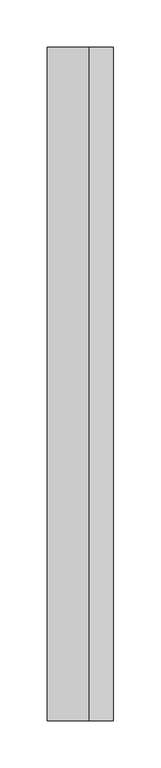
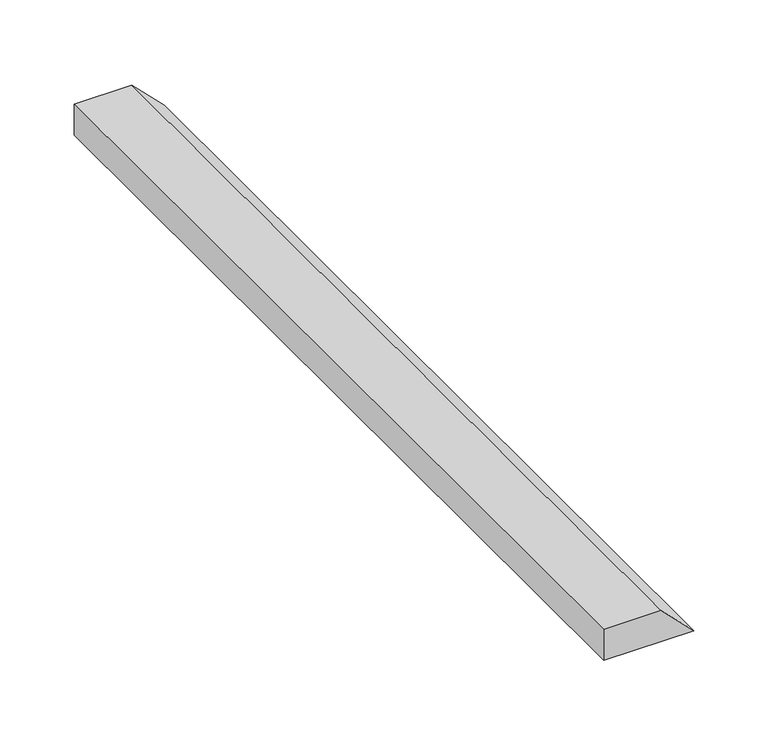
"""IFC4 building model written with IfcOpenShell, lengths in millimetres: proxy geometry, CAMBRIDGE^TABLE 2_4884 Rect-CORNER STILE 8."""

import ifcopenshell
import ifcopenshell.guid

model = None  # the IFC model being written
_history = None  # IfcOwnerHistory: only IFC2X3 demands one
_inside = {}  # id of a spatial element -> (the spatial element, [elements in it])
_under = {}  # id of a project, library or spatial element -> (it, [spatial elements below it])
_declared = {}  # id of a project -> (the project, [libraries it declares])
_typed = {}  # id of a type object -> (the type object, [elements of that type])
_made_of = {}  # id of a material, layer set ... -> (it, [elements and type objects made of it])


def new_model(schema):
    """Start an empty IFC model of exactly this schema.

    Asked for "IFC4X3", IfcOpenShell would pick the latest addendum, in which some entities
    have other attributes; the version numbers below select the first issue.
    IFC2X3 requires an IfcOwnerHistory on every rooted entity: one is made here for all.
    """
    global model, _history
    if schema == "IFC4X3":
        model = ifcopenshell.file(schema_version=(4, 3, 0, 0))
    else:
        model = ifcopenshell.file(schema=schema)
    _inside.clear()
    _under.clear()
    _declared.clear()
    _typed.clear()
    _made_of.clear()
    _history = None
    if model.schema == "IFC2X3":
        org = make("IfcOrganization", Name="unknown")
        user = make(
            "IfcPersonAndOrganization",
            ThePerson=make("IfcPerson", FamilyName="unknown"),
            TheOrganization=org,
        )
        app = make(
            "IfcApplication",
            ApplicationDeveloper=org,
            Version="unknown",
            ApplicationFullName="unknown",
            ApplicationIdentifier="unknown",
        )
        _history = make(
            "IfcOwnerHistory",
            OwningUser=user,
            OwningApplication=app,
            ChangeAction="ADDED",
            CreationDate=0,
        )
    return model


def make(cls, **values):
    """One entity of the class cls with the attributes given. An attribute that is None is left unset."""
    return model.create_entity(
        cls, **{name: value for name, value in values.items() if value is not None}
    )


def rooted(cls, **values):
    """An entity with a GlobalId (a new one), such as an element, a storey or a relation."""
    return make(cls, GlobalId=ifcopenshell.guid.new(), OwnerHistory=_history, **values)


def si_unit(unit_type, name, prefix=None):
    """IfcSIUnit, for example si_unit("LENGTHUNIT", "METRE", prefix="MILLI")."""
    return make("IfcSIUnit", UnitType=unit_type, Prefix=prefix, Name=name)


def assignment(units):
    """IfcUnitAssignment: the units of a project."""
    return None if units is None else make("IfcUnitAssignment", Units=units)


def point(xyz):
    """IfcCartesianPoint."""
    return None if xyz is None else make("IfcCartesianPoint", Coordinates=xyz)


def direction(xyz):
    """IfcDirection."""
    return None if xyz is None else make("IfcDirection", DirectionRatios=xyz)


def frame(location, z_axis=None, x_axis=None):
    """IfcAxis2Placement3D, a coordinate frame: its origin and axes. An axis left out is left unset."""
    return make(
        "IfcAxis2Placement3D",
        Location=point(location),
        Axis=direction(z_axis),
        RefDirection=direction(x_axis),
    )


def origin():
    """The frame at (0, 0, 0) with its axes left unset."""
    return frame((0.0, 0.0, 0.0))


def place(relative_to, where):
    """IfcLocalPlacement: puts the frame where relative to a parent placement (None: the world)."""
    return make(
        "IfcLocalPlacement", PlacementRelTo=relative_to, RelativePlacement=where
    )


def context(
    kind, dimensions, precision=None, world=None, true_north=None, identifier=None
):
    """IfcGeometricRepresentationContext, for example the 3D "Model" context."""
    return make(
        "IfcGeometricRepresentationContext",
        ContextIdentifier=identifier,
        ContextType=kind,
        CoordinateSpaceDimension=dimensions,
        Precision=precision,
        WorldCoordinateSystem=world,
        TrueNorth=true_north,
    )


def project(units=None, contexts=None):
    """IfcProject with its units and contexts."""
    return rooted(
        "IfcProject",
        Name="project",
        RepresentationContexts=contexts,
        UnitsInContext=assignment(units),
    )


def spatial(cls, under=None, at=None, **own):
    """A site, building, storey or space (cls), placed at a placement, below another one or the project."""
    s = rooted(cls, ObjectPlacement=at, **own)
    if under is not None:
        _under.setdefault(under.id(), (under, []))[1].append(s)
    return s


def polyline(points):
    """IfcPolyline through the points."""
    return make("IfcPolyline", Points=[point(p) for p in points])


def outline(outer, holes=None, kind="AREA"):
    """IfcArbitraryClosedProfileDef: a profile drawn as a closed curve; with holes, ...WithVoids."""
    if holes is None:
        return make("IfcArbitraryClosedProfileDef", ProfileType=kind, OuterCurve=outer)
    return make(
        "IfcArbitraryProfileDefWithVoids",
        ProfileType=kind,
        OuterCurve=outer,
        InnerCurves=holes,
    )


def extrude(swept, where, along, depth):
    """IfcExtrudedAreaSolid: the profile swept, set in the frame where, extruded along a direction by depth."""
    return make(
        "IfcExtrudedAreaSolid",
        SweptArea=swept,
        Position=where,
        ExtrudedDirection=direction(along),
        Depth=depth,
    )


def shape(context_of_items, identifier, shape_type, items):
    """IfcShapeRepresentation: the items that make up one representation, for example the "Body"."""
    return make(
        "IfcShapeRepresentation",
        ContextOfItems=context_of_items,
        RepresentationIdentifier=identifier,
        RepresentationType=shape_type,
        Items=items,
    )


def source(mapping_origin, context_of_items, identifier, shape_type, items):
    """IfcRepresentationMap: a shape defined once, which mapped items show again and again."""
    return make(
        "IfcRepresentationMap",
        MappingOrigin=mapping_origin,
        MappedRepresentation=shape(context_of_items, identifier, shape_type, items),
    )


def transform(
    local_origin,
    x_axis=None,
    y_axis=None,
    z_axis=None,
    scale=None,
    scale2=None,
    scale3=None,
    uniform=True,
):
    """IfcCartesianTransformationOperator3D, or its non-uniform kind. x_axis, y_axis, z_axis: its Axis1, 2, 3."""
    if uniform:
        return make(
            "IfcCartesianTransformationOperator3D",
            Axis1=direction(x_axis),
            Axis2=direction(y_axis),
            LocalOrigin=point(local_origin),
            Scale=scale,
            Axis3=direction(z_axis),
        )
    return make(
        "IfcCartesianTransformationOperator3DnonUniform",
        Axis1=direction(x_axis),
        Axis2=direction(y_axis),
        LocalOrigin=point(local_origin),
        Scale=scale,
        Axis3=direction(z_axis),
        Scale2=scale2,
        Scale3=scale3,
    )


def mapped(mapping_source, mapping_target):
    """IfcMappedItem: shows the shape of a source again, moved by a transform."""
    return make(
        "IfcMappedItem", MappingSource=mapping_source, MappingTarget=mapping_target
    )


def made_of(thing, what):
    """Note that an element or type object is made of a material, layer set ...; save() writes the relation."""
    if what is not None:
        _made_of.setdefault(what.id(), (what, []))[1].append(thing)
    return thing


def element(
    cls,
    number,
    at=None,
    inside=None,
    cuts=None,
    type_object=None,
    material=None,
    context=None,
    identifier="Body",
    shape_type=None,
    held_by="IfcProductDefinitionShape",
    body=None,
    shapes=None,
    **own,
):
    """One element of the class cls, such as IfcWall. Its Tag is "e" and its number.

    at: its placement. inside: the storey or other place that contains it. cuts: it is an
    opening in that element (IfcRelVoidsElement). A single representation is given by context,
    identifier, shape_type and body (its items); several are given by shapes. held_by: the class
    of the entity that holds the representations. save() writes the other relations.
    """
    e = rooted(cls, Tag="e%d" % number, ObjectPlacement=at, **own)
    if body is not None:
        shapes = [shape(context, identifier, shape_type, body)]
    if shapes is not None:
        e.Representation = make(held_by, Representations=shapes)
    if inside is not None:
        _inside.setdefault(inside.id(), (inside, []))[1].append(e)
    if cuts is not None:
        rooted(
            "IfcRelVoidsElement", RelatingBuildingElement=cuts, RelatedOpeningElement=e
        )
    if type_object is not None:
        _typed.setdefault(type_object.id(), (type_object, []))[1].append(e)
    return made_of(e, material)


def aggregate(whole, parts):
    """IfcRelAggregates: a whole, such as a stair, and the parts it consists of."""
    return rooted("IfcRelAggregates", RelatingObject=whole, RelatedObjects=parts)


def save(model, path):
    """Write the relations noted so far, then the file.

    IfcRelAggregates (storeys below a building ...), IfcRelContainedInSpatialStructure (elements
    in a storey), IfcRelDefinesByType, IfcRelAssociatesMaterial and IfcRelDeclares: one each for
    every whole, place, type object, material and project.
    """
    for whole, parts in _under.values():
        aggregate(whole, parts)
    for where, things in _inside.values():
        rooted(
            "IfcRelContainedInSpatialStructure",
            RelatedElements=things,
            RelatingStructure=where,
        )
    for kind, things in _typed.values():
        rooted("IfcRelDefinesByType", RelatedObjects=things, RelatingType=kind)
    for what, things in _made_of.values():
        rooted("IfcRelAssociatesMaterial", RelatedObjects=things, RelatingMaterial=what)
    for by, libraries in _declared.values():
        rooted("IfcRelDeclares", RelatingContext=by, RelatedDefinitions=libraries)
    model.write(path)


def generic_models_080d9df8(model_context):
    return source(origin(), model_context, "Body", "SweptSolid", [
        extrude(outline(polyline([(-787.4, 1498.6), (-787.4, 1454.15), (-812.8, 1454.15), (-812.8, 1524.0), (-787.4, 1498.6)])), frame((0.0, -711.2, 0.0), z_axis=(0.0, 1.0, 0.0), x_axis=(0.0, 0.0, 1.0)), (0.0, 0.0, 1.0), 711.2),
    ])


if __name__ == "__main__":
    model = new_model("IFC4")
    model_context = context("Model", 3, world=origin())
    ifc_project = project(units=[si_unit("LENGTHUNIT", "METRE", prefix="MILLI")], contexts=[model_context])
    site = spatial("IfcSite", under=ifc_project)
    building = spatial("IfcBuilding", under=site)
    placement = place(None, origin())
    generic_models_shape = generic_models_080d9df8(model_context)
    element("IfcBuildingElementProxy", 1, Name="CAMBRIDGE^TABLE 2_4884 Rect-CORNER STILE 8", ObjectType="CAMBRIDGE^TABLE 2_4884 Rect-CORNER STILE 8", at=placement, inside=building, context=model_context, shape_type="MappedRepresentation", body=[
        mapped(generic_models_shape, transform((0.0, 0.0, 0.0), x_axis=(1.0, 0.0, 0.0), y_axis=(0.0, 1.0, 0.0), z_axis=(0.0, 0.0, 1.0))),
    ])
    save(model, "model.ifc")
